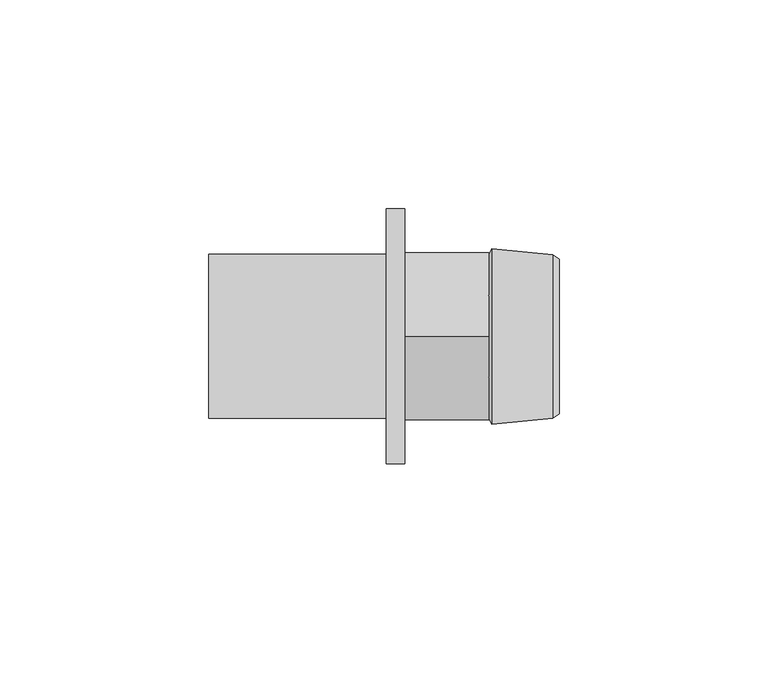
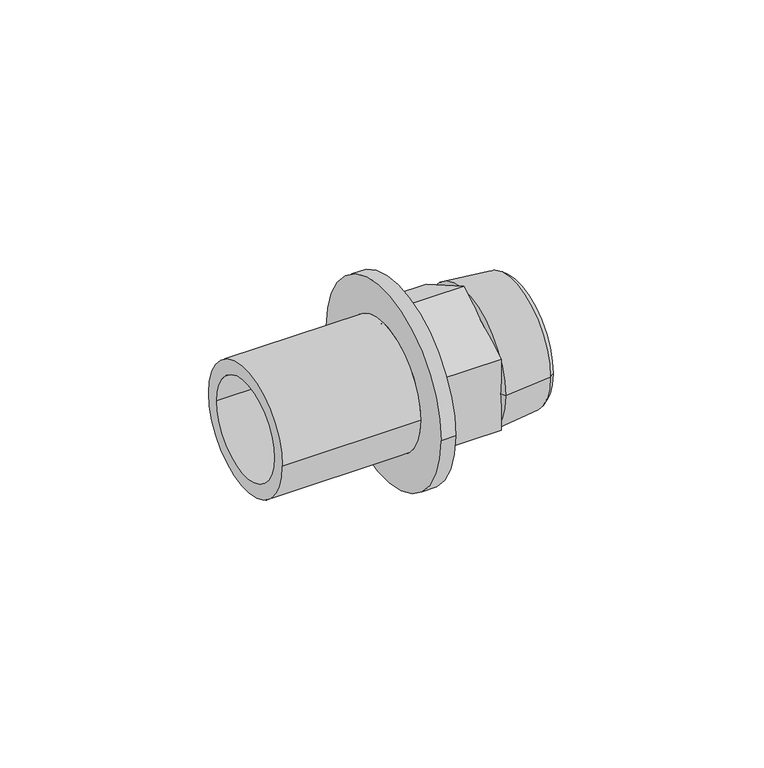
"""IFC4 building model written with IfcOpenShell, lengths in millimetres: pipe fitting geometry, REHAU_RAUTITAN_Adaptor_RX+, with external thread : REHAU_RAUTITAN_Adaptor_RX+, with external thread."""

from ifc_helpers import new_model, si_unit, point, frame, origin, origin_2d, place, context, project, spatial, polyline, circle_curve, trimmed, segment, composite_curve, outline, extrude, source, transform, mapped, element, save
from ifc_brep_helpers import plane_surface, cylinder_surface, revolved_surface, advanced_brep


def pipe_fitting_52084734(model_context):
    return source(origin(), model_context, "Body", "SolidModel", [
        advanced_brep(
        [(21.1532803, 16.25, 0.0), (21.1532803, -16.25, 0.0), (36.88, -16.25, 0.0), (36.88, 16.25, 0.0), (20.05, 15.1467197, 0.0), (20.05, -15.1467197, 0.0), (20.7906902, 21.005, 0.0), (20.7906902, -21.005, 0.0), (20.05, -19.58, 0.0), (20.05, 19.58, 0.0), (35.3800007, 19.58, 0.0), (35.3800007, -19.58, 0.0), (36.88, 18.49, 0.0), (36.88, -18.49, 0.0)],
        [
            (0, 1, circle_curve(frame((21.1532803, 0.0, 0.0), z_axis=(-1.0, 0.0, 0.0), x_axis=(0.0, -1.0, 0.0)), 16.25)),
            (1, 2),
            (2, 3, circle_curve(frame((36.88, 0.0, 0.0), z_axis=(1.0, 0.0, 0.0), x_axis=(0.0, -1.0, 0.0)), 16.25)),
            (3, 0),
            (4, 5, circle_curve(frame((20.05, 0.0, 0.0), z_axis=(-1.0, 0.0, 0.0), x_axis=(0.0, -1.0, 0.0)), 15.1467197)),
            (5, 1),
            (0, 4),
            (6, 7, circle_curve(frame((20.7906902, 0.0, 0.0), z_axis=(-1.0, 0.0, 0.0), x_axis=(0.0, -1.0, 0.0)), 21.005)),
            (7, 8),
            (8, 9, circle_curve(frame((20.05, 0.0, 0.0), z_axis=(1.0, 0.0, 0.0), x_axis=(0.0, -1.0, 0.0)), 19.58)),
            (9, 6),
            (10, 11, circle_curve(frame((35.3800007, 0.0, 0.0), z_axis=(-1.0, 0.0, 0.0), x_axis=(0.0, -1.0, 0.0)), 19.58)),
            (11, 7),
            (6, 10),
            (12, 13, circle_curve(frame((36.88, 0.0, 0.0), z_axis=(-1.0, 0.0, 0.0), x_axis=(0.0, -1.0, 0.0)), 18.49)),
            (13, 11),
            (10, 12),
            (1, 0, circle_curve(frame((21.1532803, 0.0, 0.0), z_axis=(-1.0, 0.0, 0.0), x_axis=(0.0, 1.0, 0.0)), 16.25)),
            (3, 2, circle_curve(frame((36.88, 0.0, 0.0), z_axis=(1.0, 0.0, 0.0), x_axis=(0.0, 1.0, 0.0)), 16.25)),
            (5, 4, circle_curve(frame((20.05, 0.0, 0.0), z_axis=(-1.0, 0.0, 0.0), x_axis=(0.0, 1.0, 0.0)), 15.1467197)),
            (8, 9, circle_curve(frame((20.05, 0.0, 0.0), z_axis=(-1.0, 0.0, 0.0), x_axis=(0.0, 1.0, 0.0)), 19.58)),
            (7, 6, circle_curve(frame((20.7906902, 0.0, 0.0), z_axis=(-1.0, 0.0, 0.0), x_axis=(0.0, 1.0, 0.0)), 21.005)),
            (11, 10, circle_curve(frame((35.3800007, 0.0, 0.0), z_axis=(-1.0, 0.0, 0.0), x_axis=(0.0, 1.0, 0.0)), 19.58)),
            (13, 12, circle_curve(frame((36.88, 0.0, 0.0), z_axis=(-1.0, 0.0, 0.0), x_axis=(0.0, 1.0, 0.0)), 18.49)),
        ],
        [
            revolved_surface(polyline([(36.88, -16.25, 0.0), (21.1532803, -16.25, 0.0)]), (0.0, 0.0, 0.0), (1.0, 0.0, 0.0)),
            revolved_surface(polyline([(21.1532803, -16.25, 0.0), (20.05, -15.1467197, 0.0)]), (0.0, 0.0, 0.0), (1.0, 0.0, 0.0)),
            revolved_surface(polyline([(20.05, -19.58, 0.0), (20.7906902, -21.005, 0.0)]), (0.0, 0.0, 0.0), (1.0, 0.0, 0.0)),
            revolved_surface(polyline([(20.7906902, -21.005, 0.0), (35.3800007, -19.58, 0.0)]), (0.0, 0.0, 0.0), (1.0, 0.0, 0.0)),
            revolved_surface(polyline([(35.3800007, -19.58, 0.0), (36.88, -18.49, 0.0)]), (0.0, 0.0, 0.0), (1.0, 0.0, 0.0)),
            revolved_surface(polyline([(36.88, 16.25, 0.0), (21.1532803, 16.25, 0.0)]), (0.0, 0.0, 0.0), (1.0, 0.0, 0.0)),
            revolved_surface(polyline([(21.1532803, 16.25, 0.0), (20.05, 15.1467197, 0.0)]), (0.0, 0.0, 0.0), (1.0, 0.0, 0.0)),
            plane_surface(frame((20.05, 0.0, 0.0), z_axis=(-1.0, 0.0, 0.0), x_axis=(0.0, 1.0, 0.0))),
            revolved_surface(polyline([(20.05, 19.58, 0.0), (20.7906902, 21.005, 0.0)]), (0.0, 0.0, 0.0), (1.0, 0.0, 0.0)),
            revolved_surface(polyline([(20.7906902, 21.005, 0.0), (35.3800007, 19.58, 0.0)]), (0.0, 0.0, 0.0), (1.0, 0.0, 0.0)),
            revolved_surface(polyline([(35.3800007, 19.58, 0.0), (36.88, 18.49, 0.0)]), (0.0, 0.0, 0.0), (1.0, 0.0, 0.0)),
            plane_surface(frame((36.88, 0.0, 0.0), z_axis=(1.0, 0.0, 0.0), x_axis=(0.0, 1.0, 0.0))),
        ],
        [
            (0, [[1, 2, 3, 4]]),
            (1, [[5, 6, -1, 7]]),
            (2, [[8, 9, 10, 11]]),
            (3, [[12, 13, -8, 14]]),
            (4, [[15, 16, -12, 17]]),
            (5, [[18, -4, 19, -2]]),
            (6, [[20, -7, -18, -6]]),
            (7, [[21, -10], [-20, -5]]),
            (8, [[22, -11, -21, -9]]),
            (9, [[23, -14, -22, -13]]),
            (10, [[24, -17, -23, -16]]),
            (11, [[-24, -15], [-19, -3]]),
        ],
    ),
        extrude(outline(polyline([(0.0, -23.0940108), (-20.0, -11.5470054), (-20.0, 11.5470054), (0.0, 23.0940108), (20.0, 11.5470054), (20.0, -11.5470054), (0.0, -23.0940108)]), holes=[composite_curve([segment(trimmed(circle_curve(origin_2d(), 15.25), [point((-15.25, 0.0))], [point((15.25, 0.0))], True, "CARTESIAN"), True, "CONTINUOUS"), segment(trimmed(circle_curve(origin_2d(), 15.25), [point((15.25, 0.0))], [point((-15.25, 0.0))], True, "CARTESIAN"), True, "CONTINUOUS")], self_intersect=False)]), frame((0.0, 0.0, 0.0), z_axis=(1.0, 0.0, 0.0), x_axis=(0.0, 1.0, 0.0)), (0.0, 0.0, 1.0), 20.05),
        advanced_brep(
        [(-46.92, 15.25, 0.0), (-46.92, -15.25, 0.0), (0.0, -15.25, 0.0), (0.0, 15.25, 0.0), (-4.46, 19.6, 0.0), (-4.46, -19.6, 0.0), (-46.92, -19.6, 0.0), (-46.92, 19.6, 0.0), (0.0, 30.5, 0.0), (0.0, -30.5, 0.0), (-4.46, -30.5, 0.0), (-4.46, 30.5, 0.0)],
        [
            (0, 1, circle_curve(frame((-46.92, 0.0, 0.0), z_axis=(-1.0, 0.0, 0.0), x_axis=(0.0, -1.0, 0.0)), 15.25)),
            (1, 2),
            (2, 3, circle_curve(frame((0.0, 0.0, 0.0), z_axis=(1.0, 0.0, 0.0), x_axis=(0.0, -1.0, 0.0)), 15.25)),
            (3, 0),
            (4, 5, circle_curve(frame((-4.46, 0.0, 0.0), z_axis=(-1.0, 0.0, 0.0), x_axis=(0.0, -1.0, 0.0)), 19.6)),
            (5, 6),
            (6, 7, circle_curve(frame((-46.92, 0.0, 0.0), z_axis=(1.0, 0.0, 0.0), x_axis=(0.0, -1.0, 0.0)), 19.6)),
            (7, 4),
            (8, 9, circle_curve(frame((0.0, 0.0, 0.0), z_axis=(-1.0, 0.0, 0.0), x_axis=(0.0, -1.0, 0.0)), 30.5)),
            (9, 10),
            (10, 11, circle_curve(frame((-4.46, 0.0, 0.0), z_axis=(1.0, 0.0, 0.0), x_axis=(0.0, -1.0, 0.0)), 30.5)),
            (11, 8),
            (8, 9, circle_curve(frame((0.0, 0.0, 0.0), z_axis=(1.0, 0.0, 0.0), x_axis=(0.0, 1.0, 0.0)), 30.5)),
            (2, 3, circle_curve(frame((0.0, 0.0, 0.0), z_axis=(-1.0, 0.0, 0.0), x_axis=(0.0, 1.0, 0.0)), 15.25)),
            (1, 0, circle_curve(frame((-46.92, 0.0, 0.0), z_axis=(-1.0, 0.0, 0.0), x_axis=(0.0, 1.0, 0.0)), 15.25)),
            (6, 7, circle_curve(frame((-46.92, 0.0, 0.0), z_axis=(-1.0, 0.0, 0.0), x_axis=(0.0, 1.0, 0.0)), 19.6)),
            (5, 4, circle_curve(frame((-4.46, 0.0, 0.0), z_axis=(-1.0, 0.0, 0.0), x_axis=(0.0, 1.0, 0.0)), 19.6)),
            (10, 11, circle_curve(frame((-4.46, 0.0, 0.0), z_axis=(-1.0, 0.0, 0.0), x_axis=(0.0, 1.0, 0.0)), 30.5)),
        ],
        [
            revolved_surface(polyline([(0.0, -15.25, 0.0), (-46.92, -15.25, 0.0)]), (0.0, 0.0, 0.0), (1.0, 0.0, 0.0)),
            cylinder_surface(frame((0.0, 0.0, 0.0), z_axis=(1.0, 0.0, 0.0), x_axis=(0.0, -1.0, 0.0)), 19.6),
            cylinder_surface(frame((0.0, 0.0, 0.0), z_axis=(1.0, 0.0, 0.0), x_axis=(0.0, -1.0, 0.0)), 30.5),
            plane_surface(frame((0.0, 0.0, 0.0), z_axis=(1.0, 0.0, 0.0), x_axis=(0.0, 1.0, 0.0))),
            revolved_surface(polyline([(0.0, 15.25, 0.0), (-46.92, 15.25, 0.0)]), (0.0, 0.0, 0.0), (1.0, 0.0, 0.0)),
            plane_surface(frame((-46.92, 0.0, 0.0), z_axis=(-1.0, 0.0, 0.0), x_axis=(0.0, 1.0, 0.0))),
            cylinder_surface(frame((0.0, 0.0, 0.0), z_axis=(1.0, 0.0, 0.0), x_axis=(0.0, 1.0, 0.0)), 19.6),
            plane_surface(frame((-4.46, 0.0, 0.0), z_axis=(-1.0, 0.0, 0.0), x_axis=(0.0, 1.0, 0.0))),
            cylinder_surface(frame((0.0, 0.0, 0.0), z_axis=(1.0, 0.0, 0.0), x_axis=(0.0, 1.0, 0.0)), 30.5),
        ],
        [
            (0, [[1, 2, 3, 4]]),
            (1, [[5, 6, 7, 8]]),
            (2, [[9, 10, 11, 12]]),
            (3, [[13, -9], [14, -3]]),
            (4, [[15, -4, -14, -2]]),
            (5, [[16, -7], [-15, -1]]),
            (6, [[17, -8, -16, -6]]),
            (7, [[18, -11], [-17, -5]]),
            (8, [[-13, -12, -18, -10]]),
        ],
    ),
    ])


if __name__ == "__main__":
    model = new_model("IFC4")
    model_context = context("Model", 3, world=origin())
    ifc_project = project(units=[si_unit("LENGTHUNIT", "METRE", prefix="MILLI")], contexts=[model_context])
    site = spatial("IfcSite", under=ifc_project)
    building = spatial("IfcBuilding", under=site)
    placement = place(None, origin())
    pipe_fitting_shape = pipe_fitting_52084734(model_context)
    element("IfcPipeFitting", 1, ObjectType="REHAU_RAUTITAN_Adaptor_RX+, with external thread : REHAU_RAUTITAN_Adaptor_RX+, with external thread", at=placement, inside=building, context=model_context, shape_type="MappedRepresentation", body=[
        mapped(pipe_fitting_shape, transform((0.0, 0.0, 0.0), x_axis=(1.0, 0.0, 0.0), y_axis=(0.0, 1.0, 0.0), z_axis=(0.0, 0.0, 1.0))),
    ])
    save(model, "model.ifc")
